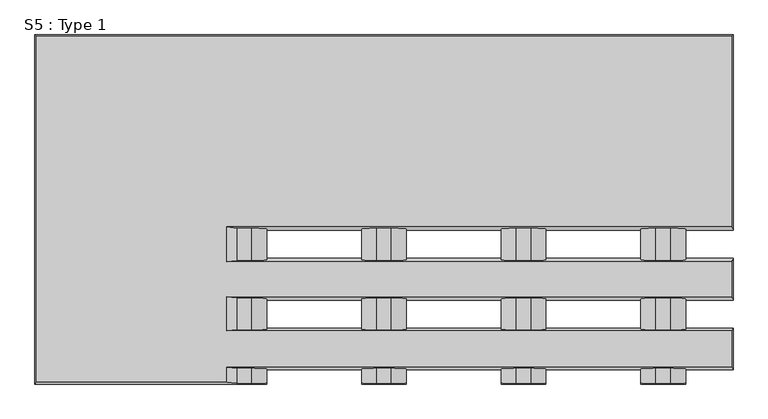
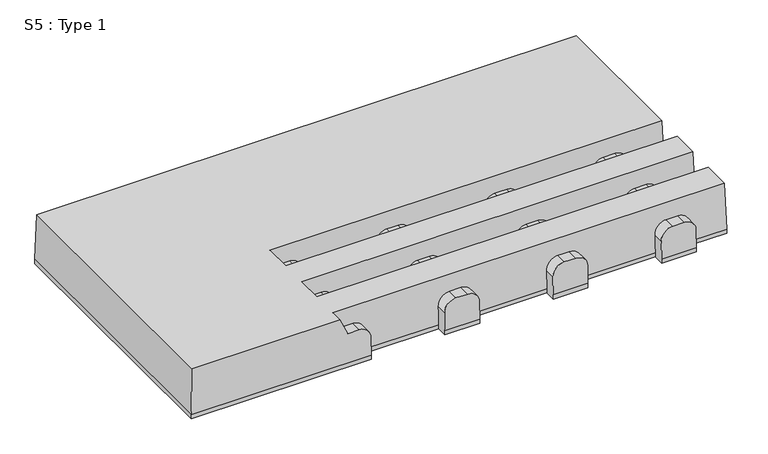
"""IFC4 building model written with IfcOpenShell, lengths in millimetres: proxy geometry, S5 : Type 1."""

from ifc_helpers import new_model, si_unit, frame, origin, place, context, project, spatial, ellipse_curve, source, transform, mapped, element, save
from ifc_brep_helpers import plane_surface, cylinder_surface, advanced_brep


def s5_type_1_397d8c60(model_context):
    return source(origin(), model_context, "Body", "AdvancedBrep", [
        advanced_brep(
        [(0.0, 0.0, 0.0), (415.0, 0.0, 0.0), (415.0, 0.0, 10.0), (0.0, 0.0, 10.0), (1250.0, 625.0, 0.0), (0.0, 625.0, 0.0), (0.0, 625.0, 10.0), (1250.0, 625.0, 10.0), (1250.0, 275.25, 0.0), (1165.0, 275.25, 0.0), (1165.0, 224.75, 0.0), (1250.0, 224.75, 0.0), (1250.0, 150.25, 0.0), (1165.0, 150.25, 0.0), (1165.0, 99.75, 0.0), (1250.0, 99.75, 0.0), (1250.0, 25.25, 0.0), (1165.0, 25.25, 0.0), (1165.0, 0.0, 0.0), (1085.0, 0.0, 0.0), (1085.0, 25.25, 0.0), (915.0, 25.25, 0.0), (915.0, 0.0, 0.0), (835.0, 0.0, 0.0), (835.0, 25.25, 0.0), (665.0, 25.25, 0.0), (665.0, 0.0, 0.0), (585.0, 0.0, 0.0), (585.0, 25.25, 0.0), (415.0, 25.25, 0.0), (665.0, 150.25, 0.0), (665.0, 99.75, 0.0), (835.0, 99.75, 0.0), (835.0, 150.25, 0.0), (665.0, 275.25, 0.0), (665.0, 224.75, 0.0), (835.0, 224.75, 0.0), (835.0, 275.25, 0.0), (915.0, 150.25, 0.0), (915.0, 99.75, 0.0), (1085.0, 99.75, 0.0), (1085.0, 150.25, 0.0), (915.0, 275.25, 0.0), (915.0, 224.75, 0.0), (1085.0, 224.75, 0.0), (1085.0, 275.25, 0.0), (415.0, 150.25, 0.0), (415.0, 99.75, 0.0), (585.0, 99.75, 0.0), (585.0, 150.25, 0.0), (415.0, 275.25, 0.0), (415.0, 224.75, 0.0), (585.0, 224.75, 0.0), (585.0, 275.25, 0.0), (1250.0, 99.75, 10.0), (1250.0, 25.25, 10.0), (1165.0, 99.75, 10.0), (665.0, 99.75, 10.0), (835.0, 99.75, 10.0), (915.0, 99.75, 10.0), (1085.0, 99.75, 10.0), (415.0, 99.75, 10.0), (585.0, 99.75, 10.0), (415.0, 97.8943952, 53.33), (388.33, 96.7522539, 80.0), (361.67, 96.7522539, 80.0), (343.8, 95.0392562, 120.0), (1247.25, 95.0392562, 120.0), (1165.0, 97.8943952, 53.33), (1138.33, 96.7522539, 80.0), (1111.67, 96.7522539, 80.0), (1085.0, 97.8943952, 53.33), (915.0, 97.8943952, 53.33), (888.33, 96.7522539, 80.0), (861.67, 96.7522539, 80.0), (835.0, 97.8943952, 53.33), (665.0, 97.8943952, 53.33), (638.33, 96.7522539, 80.0), (611.67, 96.7522539, 80.0), (585.0, 97.8943952, 53.33), (415.0, 27.1056048, 53.33), (415.0, 25.25, 10.0), (585.0, 25.25, 10.0), (585.0, 27.1056048, 53.33), (611.67, 28.2477461, 80.0), (638.33, 28.2477461, 80.0), (665.0, 27.1056048, 53.33), (665.0, 25.25, 10.0), (835.0, 25.25, 10.0), (835.0, 27.1056048, 53.33), (861.67, 28.2477461, 80.0), (888.33, 28.2477461, 80.0), (915.0, 27.1056048, 53.33), (915.0, 25.25, 10.0), (1085.0, 25.25, 10.0), (1085.0, 27.1056048, 53.33), (1111.67, 28.2477461, 80.0), (1138.33, 28.2477461, 80.0), (1165.0, 27.1056048, 53.33), (1165.0, 25.25, 10.0), (1247.25, 29.9607438, 120.0), (343.8, 29.9607438, 120.0), (361.67, 28.2477461, 80.0), (388.33, 28.2477461, 80.0), (1250.0, 224.75, 10.0), (1250.0, 150.25, 10.0), (1165.0, 224.75, 10.0), (665.0, 224.75, 10.0), (835.0, 224.75, 10.0), (915.0, 224.75, 10.0), (1085.0, 224.75, 10.0), (415.0, 224.75, 10.0), (585.0, 224.75, 10.0), (415.0, 222.3865455, 53.33), (388.33, 220.9318182, 80.0), (361.67, 220.9318182, 80.0), (343.8, 218.75, 120.0), (1247.25, 218.75, 120.0), (1165.0, 222.3865455, 53.33), (1138.33, 220.9318182, 80.0), (1111.67, 220.9318182, 80.0), (1085.0, 222.3865455, 53.33), (915.0, 222.3865455, 53.33), (888.33, 220.9318182, 80.0), (861.67, 220.9318182, 80.0), (835.0, 222.3865455, 53.33), (665.0, 222.3865455, 53.33), (638.33, 220.9318182, 80.0), (611.67, 220.9318182, 80.0), (585.0, 222.3865455, 53.33), (415.0, 152.6134545, 53.33), (415.0, 150.25, 10.0), (585.0, 150.25, 10.0), (585.0, 152.6134545, 53.33), (611.67, 154.0681818, 80.0), (638.33, 154.0681818, 80.0), (665.0, 152.6134545, 53.33), (665.0, 150.25, 10.0), (835.0, 150.25, 10.0), (835.0, 152.6134545, 53.33), (861.67, 154.0681818, 80.0), (888.33, 154.0681818, 80.0), (915.0, 152.6134545, 53.33), (915.0, 150.25, 10.0), (1085.0, 150.25, 10.0), (1085.0, 152.6134545, 53.33), (1111.67, 154.0681818, 80.0), (1138.33, 154.0681818, 80.0), (1165.0, 152.6134545, 53.33), (1165.0, 150.25, 10.0), (1247.25, 156.25, 120.0), (343.8, 156.25, 120.0), (361.67, 154.0681818, 80.0), (388.33, 154.0681818, 80.0), (1250.0, 275.25, 10.0), (415.0, 277.6134545, 53.33), (415.0, 275.25, 10.0), (585.0, 275.25, 10.0), (585.0, 277.6134545, 53.33), (611.67, 279.0681818, 80.0), (638.33, 279.0681818, 80.0), (665.0, 277.6134545, 53.33), (665.0, 275.25, 10.0), (835.0, 275.25, 10.0), (835.0, 277.6134545, 53.33), (861.67, 279.0681818, 80.0), (888.33, 279.0681818, 80.0), (915.0, 277.6134545, 53.33), (915.0, 275.25, 10.0), (1085.0, 275.25, 10.0), (1085.0, 277.6134545, 53.33), (1111.67, 279.0681818, 80.0), (1138.33, 279.0681818, 80.0), (1165.0, 277.6134545, 53.33), (1165.0, 275.25, 10.0), (1247.25, 281.25, 120.0), (343.8, 281.25, 120.0), (361.67, 279.0681818, 80.0), (388.33, 279.0681818, 80.0), (665.0, 0.0, 10.0), (585.0, 0.0, 10.0), (915.0, 0.0, 10.0), (835.0, 0.0, 10.0), (1165.0, 0.0, 10.0), (1085.0, 0.0, 10.0), (665.0, 1.08325, 53.33), (638.33, 1.75, 80.0), (611.67, 1.75, 80.0), (585.0, 1.08325, 53.33), (915.0, 1.08325, 53.33), (888.33, 1.75, 80.0), (861.67, 1.75, 80.0), (835.0, 1.08325, 53.33), (1165.0, 1.08325, 53.33), (1138.33, 1.75, 80.0), (1111.67, 1.75, 80.0), (1085.0, 1.08325, 53.33), (415.0, 1.08325, 53.33), (388.33, 1.75, 80.0), (361.67, 1.75, 80.0), (343.8, 2.75, 120.0), (1247.25, 622.25, 120.0), (2.75, 622.25, 120.0), (2.75, 2.75, 120.0)],
        [
            (0, 1),
            (1, 2),
            (2, 3),
            (3, 0),
            (4, 5),
            (5, 6),
            (6, 7),
            (7, 4),
            (5, 0),
            (3, 6),
            (4, 8),
            (8, 9),
            (9, 10),
            (10, 11),
            (11, 12),
            (12, 13),
            (13, 14),
            (14, 15),
            (15, 16),
            (16, 17),
            (17, 18),
            (18, 19),
            (19, 20),
            (20, 21),
            (21, 22),
            (22, 23),
            (23, 24),
            (24, 25),
            (25, 26),
            (26, 27),
            (27, 28),
            (28, 29),
            (29, 1),
            (30, 31),
            (31, 32),
            (32, 33),
            (33, 30),
            (34, 35),
            (35, 36),
            (36, 37),
            (37, 34),
            (38, 39),
            (39, 40),
            (40, 41),
            (41, 38),
            (42, 43),
            (43, 44),
            (44, 45),
            (45, 42),
            (46, 47),
            (47, 48),
            (48, 49),
            (49, 46),
            (50, 51),
            (51, 52),
            (52, 53),
            (53, 50),
            (15, 54),
            (54, 55),
            (55, 16),
            (14, 56),
            (56, 54),
            (31, 57),
            (57, 58),
            (58, 32),
            (39, 59),
            (59, 60),
            (60, 40),
            (47, 61),
            (61, 62),
            (62, 48),
            (61, 63),
            (63, 64, ellipse_curve(frame((388.33, 97.8943952, 53.33), z_axis=(0.0, -0.9990842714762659, -0.042785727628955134), x_axis=(0.0, -0.04278572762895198, 0.999084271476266)), 26.6944449, 26.67)),
            (64, 65),
            (65, 66),
            (66, 67),
            (67, 54),
            (56, 68),
            (68, 69, ellipse_curve(frame((1138.33, 97.8943952, 53.33), z_axis=(0.0, -0.9990842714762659, -0.042785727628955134), x_axis=(0.0, -0.04278572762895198, 0.999084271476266)), 26.6944449, 26.67)),
            (69, 70),
            (70, 71, ellipse_curve(frame((1111.67, 97.8943952, 53.33), z_axis=(0.0, -0.9990842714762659, -0.042785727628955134), x_axis=(0.0, -0.04278572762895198, 0.999084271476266)), 26.6944449, 26.67)),
            (71, 60),
            (59, 72),
            (72, 73, ellipse_curve(frame((888.33, 97.8943952, 53.33), z_axis=(0.0, -0.9990842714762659, -0.042785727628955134), x_axis=(0.0, -0.04278572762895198, 0.999084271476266)), 26.6944449, 26.67)),
            (73, 74),
            (74, 75, ellipse_curve(frame((861.67, 97.8943952, 53.33), z_axis=(0.0, -0.9990842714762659, -0.042785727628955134), x_axis=(0.0, -0.04278572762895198, 0.999084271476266)), 26.6944449, 26.67)),
            (75, 58),
            (57, 76),
            (76, 77, ellipse_curve(frame((638.33, 97.8943952, 53.33), z_axis=(0.0, -0.9990842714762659, -0.042785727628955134), x_axis=(0.0, -0.04278572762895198, 0.999084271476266)), 26.6944449, 26.67)),
            (77, 78),
            (78, 79, ellipse_curve(frame((611.67, 97.8943952, 53.33), z_axis=(0.0, -0.9990842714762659, -0.042785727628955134), x_axis=(0.0, -0.04278572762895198, 0.999084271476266)), 26.6944449, 26.67)),
            (79, 62),
            (80, 81),
            (81, 82),
            (82, 83),
            (83, 84, ellipse_curve(frame((611.67, 27.1056048, 53.33), z_axis=(0.0, 0.9990842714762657, -0.042785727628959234), x_axis=(0.0, -0.042785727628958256, -0.9990842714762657)), 26.6944449, 26.67)),
            (84, 85),
            (85, 86, ellipse_curve(frame((638.33, 27.1056048, 53.33), z_axis=(0.0, 0.9990842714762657, -0.042785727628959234), x_axis=(0.0, -0.042785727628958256, -0.9990842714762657)), 26.6944449, 26.67)),
            (86, 87),
            (87, 88),
            (88, 89),
            (89, 90, ellipse_curve(frame((861.67, 27.1056048, 53.33), z_axis=(0.0, 0.9990842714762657, -0.042785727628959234), x_axis=(0.0, -0.042785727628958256, -0.9990842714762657)), 26.6944449, 26.67)),
            (90, 91),
            (91, 92, ellipse_curve(frame((888.33, 27.1056048, 53.33), z_axis=(0.0, 0.9990842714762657, -0.042785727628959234), x_axis=(0.0, -0.042785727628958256, -0.9990842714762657)), 26.6944449, 26.67)),
            (92, 93),
            (93, 94),
            (94, 95),
            (95, 96, ellipse_curve(frame((1111.67, 27.1056048, 53.33), z_axis=(0.0, 0.9990842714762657, -0.042785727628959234), x_axis=(0.0, -0.042785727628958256, -0.9990842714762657)), 26.6944449, 26.67)),
            (96, 97),
            (97, 98, ellipse_curve(frame((1138.33, 27.1056048, 53.33), z_axis=(0.0, 0.9990842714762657, -0.042785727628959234), x_axis=(0.0, -0.042785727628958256, -0.9990842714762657)), 26.6944449, 26.67)),
            (98, 99),
            (99, 55),
            (55, 100),
            (100, 101),
            (101, 102),
            (102, 103),
            (103, 80, ellipse_curve(frame((388.33, 27.1056048, 53.33), z_axis=(0.0, 0.9990842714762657, -0.042785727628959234), x_axis=(0.0, -0.042785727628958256, -0.9990842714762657)), 26.6944449, 26.67)),
            (99, 17),
            (87, 25),
            (24, 88),
            (93, 21),
            (20, 94),
            (81, 29),
            (28, 82),
            (11, 104),
            (104, 105),
            (105, 12),
            (10, 106),
            (106, 104),
            (35, 107),
            (107, 108),
            (108, 36),
            (43, 109),
            (109, 110),
            (110, 44),
            (51, 111),
            (111, 112),
            (112, 52),
            (111, 113),
            (113, 114, ellipse_curve(frame((388.33, 222.3865455, 53.33), z_axis=(0.0, -0.9985157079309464, -0.05446449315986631), x_axis=(0.0, -0.05446449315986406, 0.9985157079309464)), 26.7096449, 26.67)),
            (114, 115),
            (115, 116),
            (116, 117),
            (117, 104),
            (106, 118),
            (118, 119, ellipse_curve(frame((1138.33, 222.3865455, 53.33), z_axis=(0.0, -0.9985157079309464, -0.05446449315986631), x_axis=(0.0, -0.05446449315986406, 0.9985157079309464)), 26.7096449, 26.67)),
            (119, 120),
            (120, 121, ellipse_curve(frame((1111.67, 222.3865455, 53.33), z_axis=(0.0, -0.9985157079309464, -0.05446449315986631), x_axis=(0.0, -0.05446449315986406, 0.9985157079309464)), 26.7096449, 26.67)),
            (121, 110),
            (109, 122),
            (122, 123, ellipse_curve(frame((888.33, 222.3865455, 53.33), z_axis=(0.0, -0.9985157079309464, -0.05446449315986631), x_axis=(0.0, -0.05446449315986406, 0.9985157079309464)), 26.7096449, 26.67)),
            (123, 124),
            (124, 125, ellipse_curve(frame((861.67, 222.3865455, 53.33), z_axis=(0.0, -0.9985157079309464, -0.05446449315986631), x_axis=(0.0, -0.05446449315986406, 0.9985157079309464)), 26.7096449, 26.67)),
            (125, 108),
            (107, 126),
            (126, 127, ellipse_curve(frame((638.33, 222.3865455, 53.33), z_axis=(0.0, -0.9985157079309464, -0.05446449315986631), x_axis=(0.0, -0.05446449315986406, 0.9985157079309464)), 26.7096449, 26.67)),
            (127, 128),
            (128, 129, ellipse_curve(frame((611.67, 222.3865455, 53.33), z_axis=(0.0, -0.9985157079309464, -0.05446449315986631), x_axis=(0.0, -0.05446449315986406, 0.9985157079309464)), 26.7096449, 26.67)),
            (129, 112),
            (130, 131),
            (131, 132),
            (132, 133),
            (133, 134, ellipse_curve(frame((611.67, 152.6134545, 53.33), z_axis=(0.0, 0.998515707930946, -0.05446449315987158), x_axis=(0.0, -0.05446449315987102, -0.9985157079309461)), 26.7096449, 26.67)),
            (134, 135),
            (135, 136, ellipse_curve(frame((638.33, 152.6134545, 53.33), z_axis=(0.0, 0.998515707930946, -0.05446449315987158), x_axis=(0.0, -0.05446449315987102, -0.9985157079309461)), 26.7096449, 26.67)),
            (136, 137),
            (137, 138),
            (138, 139),
            (139, 140, ellipse_curve(frame((861.67, 152.6134545, 53.33), z_axis=(0.0, 0.998515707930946, -0.05446449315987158), x_axis=(0.0, -0.05446449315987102, -0.9985157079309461)), 26.7096449, 26.67)),
            (140, 141),
            (141, 142, ellipse_curve(frame((888.33, 152.6134545, 53.33), z_axis=(0.0, 0.998515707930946, -0.05446449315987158), x_axis=(0.0, -0.05446449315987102, -0.9985157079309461)), 26.7096449, 26.67)),
            (142, 143),
            (143, 144),
            (144, 145),
            (145, 146, ellipse_curve(frame((1111.67, 152.6134545, 53.33), z_axis=(0.0, 0.998515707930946, -0.05446449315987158), x_axis=(0.0, -0.05446449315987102, -0.9985157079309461)), 26.7096449, 26.67)),
            (146, 147),
            (147, 148, ellipse_curve(frame((1138.33, 152.6134545, 53.33), z_axis=(0.0, 0.998515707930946, -0.05446449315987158), x_axis=(0.0, -0.05446449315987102, -0.9985157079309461)), 26.7096449, 26.67)),
            (148, 149),
            (149, 105),
            (105, 150),
            (150, 151),
            (151, 152),
            (152, 153),
            (153, 130, ellipse_curve(frame((388.33, 152.6134545, 53.33), z_axis=(0.0, 0.998515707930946, -0.05446449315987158), x_axis=(0.0, -0.05446449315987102, -0.9985157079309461)), 26.7096449, 26.67)),
            (149, 13),
            (137, 30),
            (33, 138),
            (143, 38),
            (41, 144),
            (131, 46),
            (49, 132),
            (154, 8),
            (7, 154),
            (155, 156),
            (156, 157),
            (157, 158),
            (158, 159, ellipse_curve(frame((611.67, 277.6134545, 53.33), z_axis=(0.0, 0.998515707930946, -0.05446449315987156), x_axis=(0.0, -0.054464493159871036, -0.998515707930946)), 26.7096449, 26.67)),
            (159, 160),
            (160, 161, ellipse_curve(frame((638.33, 277.6134545, 53.33), z_axis=(0.0, 0.998515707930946, -0.05446449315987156), x_axis=(0.0, -0.054464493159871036, -0.998515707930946)), 26.7096449, 26.67)),
            (161, 162),
            (162, 163),
            (163, 164),
            (164, 165, ellipse_curve(frame((861.67, 277.6134545, 53.33), z_axis=(0.0, 0.998515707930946, -0.05446449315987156), x_axis=(0.0, -0.054464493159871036, -0.998515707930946)), 26.7096449, 26.67)),
            (165, 166),
            (166, 167, ellipse_curve(frame((888.33, 277.6134545, 53.33), z_axis=(0.0, 0.998515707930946, -0.05446449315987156), x_axis=(0.0, -0.054464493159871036, -0.998515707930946)), 26.7096449, 26.67)),
            (167, 168),
            (168, 169),
            (169, 170),
            (170, 171, ellipse_curve(frame((1111.67, 277.6134545, 53.33), z_axis=(0.0, 0.998515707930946, -0.05446449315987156), x_axis=(0.0, -0.054464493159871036, -0.998515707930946)), 26.7096449, 26.67)),
            (171, 172),
            (172, 173, ellipse_curve(frame((1138.33, 277.6134545, 53.33), z_axis=(0.0, 0.998515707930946, -0.05446449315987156), x_axis=(0.0, -0.054464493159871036, -0.998515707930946)), 26.7096449, 26.67)),
            (173, 174),
            (174, 154),
            (154, 175),
            (175, 176),
            (176, 177),
            (177, 178),
            (178, 155, ellipse_curve(frame((388.33, 277.6134545, 53.33), z_axis=(0.0, 0.998515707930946, -0.05446449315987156), x_axis=(0.0, -0.054464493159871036, -0.998515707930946)), 26.7096449, 26.67)),
            (174, 9),
            (162, 34),
            (37, 163),
            (168, 42),
            (45, 169),
            (156, 50),
            (53, 157),
            (26, 179),
            (179, 180),
            (180, 27),
            (22, 181),
            (181, 182),
            (182, 23),
            (18, 183),
            (183, 184),
            (184, 19),
            (86, 185),
            (185, 179),
            (136, 76),
            (161, 126),
            (85, 186),
            (186, 185, ellipse_curve(frame((638.33, 1.08325, 53.33), z_axis=(0.0, 0.9996876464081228, -0.024992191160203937), x_axis=(0.0, -0.02499219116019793, -0.9996876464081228)), 26.6783331, 26.67)),
            (135, 77),
            (160, 127),
            (84, 187),
            (187, 186),
            (134, 78),
            (159, 128),
            (83, 188),
            (188, 187, ellipse_curve(frame((611.67, 1.08325, 53.33), z_axis=(0.0, 0.9996876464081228, -0.024992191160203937), x_axis=(0.0, -0.02499219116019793, -0.9996876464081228)), 26.6783331, 26.67)),
            (133, 79),
            (158, 129),
            (180, 188),
            (92, 189),
            (189, 181),
            (142, 72),
            (167, 122),
            (91, 190),
            (190, 189, ellipse_curve(frame((888.33, 1.08325, 53.33), z_axis=(0.0, 0.9996876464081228, -0.024992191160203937), x_axis=(0.0, -0.02499219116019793, -0.9996876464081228)), 26.6783331, 26.67)),
            (141, 73),
            (166, 123),
            (90, 191),
            (191, 190),
            (140, 74),
            (165, 124),
            (89, 192),
            (192, 191, ellipse_curve(frame((861.67, 1.08325, 53.33), z_axis=(0.0, 0.9996876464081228, -0.024992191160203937), x_axis=(0.0, -0.02499219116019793, -0.9996876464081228)), 26.6783331, 26.67)),
            (139, 75),
            (164, 125),
            (182, 192),
            (173, 118),
            (148, 68),
            (98, 193),
            (193, 183),
            (97, 194),
            (194, 193, ellipse_curve(frame((1138.33, 1.08325, 53.33), z_axis=(0.0, 0.9996876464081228, -0.024992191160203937), x_axis=(0.0, -0.02499219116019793, -0.9996876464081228)), 26.6783331, 26.67)),
            (147, 69),
            (172, 119),
            (96, 195),
            (195, 194),
            (146, 70),
            (171, 120),
            (95, 196),
            (196, 195, ellipse_curve(frame((1111.67, 1.08325, 53.33), z_axis=(0.0, 0.9996876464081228, -0.024992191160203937), x_axis=(0.0, -0.02499219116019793, -0.9996876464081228)), 26.6783331, 26.67)),
            (145, 71),
            (170, 121),
            (184, 196),
            (80, 197),
            (197, 2),
            (130, 63),
            (155, 113),
            (153, 64),
            (103, 198),
            (198, 197, ellipse_curve(frame((388.33, 1.08325, 53.33), z_axis=(0.0, 0.9996876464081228, -0.024992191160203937), x_axis=(0.0, -0.02499219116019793, -0.9996876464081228)), 26.6783331, 26.67)),
            (178, 114),
            (152, 65),
            (102, 199),
            (199, 198),
            (177, 115),
            (151, 66),
            (101, 200),
            (200, 199),
            (176, 116),
            (150, 117),
            (175, 201),
            (201, 202),
            (202, 203),
            (203, 200),
            (100, 67),
            (3, 203),
            (202, 6),
            (7, 201),
        ],
        [
            plane_surface(frame((415.0, 0.0, 0.0), z_axis=(0.0, -1.0, 0.0), x_axis=(0.0, 0.0, 1.0))),
            plane_surface(frame((415.0, 625.0, 0.0), z_axis=(0.0, 1.0, 0.0), x_axis=(0.0, 0.0, -1.0))),
            plane_surface(frame((0.0, 0.0, 120.0), z_axis=(-1.0, 0.0, 0.0), x_axis=(0.0, 1.0, 0.0))),
            plane_surface(frame((0.0, 0.0, 0.0), z_axis=(0.0, 0.0, -1.0), x_axis=(0.0, 1.0, 0.0))),
            plane_surface(frame((1250.0, 99.75, 0.0), z_axis=(1.0, 0.0, 0.0), x_axis=(0.0, 0.0, 1.0))),
            plane_surface(frame((1250.0, 99.75, 0.0), z_axis=(0.0, 1.0, 0.0), x_axis=(-1.0, 0.0, 0.0))),
            plane_surface(frame((1250.0, 99.75, 10.0), z_axis=(0.0, 0.9990842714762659, 0.042785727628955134), x_axis=(-1.0, 0.0, 0.0))),
            plane_surface(frame((1250.0, 29.9607438, 120.0), z_axis=(0.0, -0.9990842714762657, 0.042785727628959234), x_axis=(-1.0, 0.0, 0.0))),
            plane_surface(frame((1250.0, 25.25, 10.0), z_axis=(0.0, -1.0, 0.0), x_axis=(-1.0, 0.0, 0.0))),
            plane_surface(frame((1250.0, 224.75, 0.0), z_axis=(1.0, 0.0, 0.0), x_axis=(0.0, 0.0, 1.0))),
            plane_surface(frame((1250.0, 224.75, 0.0), z_axis=(0.0, 1.0, 0.0), x_axis=(-1.0, 0.0, 0.0))),
            plane_surface(frame((1250.0, 224.75, 10.0), z_axis=(0.0, 0.9985157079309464, 0.05446449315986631), x_axis=(-1.0, 0.0, 0.0))),
            plane_surface(frame((1250.0, 156.25, 120.0), z_axis=(0.0, -0.998515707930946, 0.05446449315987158), x_axis=(-1.0, 0.0, 0.0))),
            plane_surface(frame((1250.0, 150.25, 10.0), z_axis=(0.0, -1.0, 0.0), x_axis=(-1.0, 0.0, 0.0))),
            plane_surface(frame((1250.0, 625.0, 0.0), z_axis=(1.0, 0.0, 0.0), x_axis=(0.0, 0.0, 1.0))),
            plane_surface(frame((1250.0, 281.25, 120.0), z_axis=(0.0, -0.998515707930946, 0.05446449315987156), x_axis=(-1.0, 0.0, 0.0))),
            plane_surface(frame((1250.0, 275.25, 10.0), z_axis=(0.0, -1.0, 0.0), x_axis=(-1.0, 0.0, 0.0))),
            plane_surface(frame((665.0, 0.0, 0.0), z_axis=(0.0, -1.0, 0.0), x_axis=(0.0, 0.0, 1.0))),
            plane_surface(frame((915.0, 0.0, 0.0), z_axis=(0.0, -1.0, 0.0), x_axis=(0.0, 0.0, 1.0))),
            plane_surface(frame((1165.0, 0.0, 0.0), z_axis=(0.0, -1.0, 0.0), x_axis=(0.0, 0.0, 1.0))),
            plane_surface(frame((665.0, 0.0, 0.0), z_axis=(1.0, 0.0, 0.0), x_axis=(0.0, 1.0, 0.0))),
            cylinder_surface(frame((638.33, 625.0, 53.33), z_axis=(0.0, -1.0, 0.0), x_axis=(1.0, 0.0, 0.0)), 26.67),
            plane_surface(frame((638.33, 0.0, 80.0), z_axis=(0.0, 0.0, 1.0), x_axis=(0.0, 1.0, 0.0))),
            cylinder_surface(frame((611.67, 625.0, 53.33), z_axis=(0.0, -1.0, 0.0), x_axis=(1.0, 0.0, 0.0)), 26.67),
            plane_surface(frame((585.0, 0.0, 53.33), z_axis=(-1.0, 0.0, 0.0), x_axis=(0.0, 1.0, 0.0))),
            plane_surface(frame((915.0, 0.0, 0.0), z_axis=(1.0, 0.0, 0.0), x_axis=(0.0, 1.0, 0.0))),
            cylinder_surface(frame((888.33, 625.0, 53.33), z_axis=(0.0, -1.0, 0.0), x_axis=(1.0, 0.0, 0.0)), 26.67),
            plane_surface(frame((888.33, 0.0, 80.0), z_axis=(0.0, 0.0, 1.0), x_axis=(0.0, 1.0, 0.0))),
            cylinder_surface(frame((861.67, 625.0, 53.33), z_axis=(0.0, -1.0, 0.0), x_axis=(1.0, 0.0, 0.0)), 26.67),
            plane_surface(frame((835.0, 0.0, 53.33), z_axis=(-1.0, 0.0, 0.0), x_axis=(0.0, 1.0, 0.0))),
            plane_surface(frame((1165.0, 0.0, 0.0), z_axis=(1.0, 0.0, 0.0), x_axis=(0.0, 1.0, 0.0))),
            cylinder_surface(frame((1138.33, 625.0, 53.33), z_axis=(0.0, -1.0, 0.0), x_axis=(1.0, 0.0, 0.0)), 26.67),
            plane_surface(frame((1138.33, 0.0, 80.0), z_axis=(0.0, 0.0, 1.0), x_axis=(0.0, 1.0, 0.0))),
            cylinder_surface(frame((1111.67, 625.0, 53.33), z_axis=(0.0, -1.0, 0.0), x_axis=(1.0, 0.0, 0.0)), 26.67),
            plane_surface(frame((1085.0, 0.0, 53.33), z_axis=(-1.0, 0.0, 0.0), x_axis=(0.0, 1.0, 0.0))),
            plane_surface(frame((415.0, 0.0, 0.0), z_axis=(1.0, 0.0, 0.0), x_axis=(0.0, 1.0, 0.0))),
            cylinder_surface(frame((388.33, 625.0, 53.33), z_axis=(0.0, -1.0, 0.0), x_axis=(1.0, 0.0, 0.0)), 26.67),
            plane_surface(frame((388.33, 0.0, 80.0), z_axis=(0.0, 0.0, 1.0), x_axis=(0.0, 1.0, 0.0))),
            plane_surface(frame((361.67, 0.0, 80.0), z_axis=(0.9130286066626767, 0.0, 0.4078955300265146), x_axis=(0.0, 1.0, 0.0))),
            plane_surface(frame((343.8, 0.0, 120.0), z_axis=(0.0, 0.0, 1.0), x_axis=(0.0, 1.0, 0.0))),
            plane_surface(frame((0.0, 0.0, 10.0), z_axis=(-0.9996876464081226, 0.0, 0.024992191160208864), x_axis=(0.0, 1.0, 0.0))),
            plane_surface(frame((1247.25, 0.0, 120.0), z_axis=(0.9996876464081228, 0.0, 0.024992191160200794), x_axis=(0.0, 1.0, 0.0))),
            plane_surface(frame((1250.0, 622.25, 120.0), z_axis=(0.0, 0.9996876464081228, 0.02499219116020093), x_axis=(-1.0, 0.0, 0.0))),
            plane_surface(frame((1250.0, 0.0, 10.0), z_axis=(0.0, -0.9996876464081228, 0.024992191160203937), x_axis=(-1.0, 0.0, 0.0))),
        ],
        [
            (0, [[1, 2, 3, 4]]),
            (1, [[5, 6, 7, 8]]),
            (2, [[9, -4, 10, -6]]),
            (3, [[-1, -9, -5, 11, 12, 13, 14, 15, 16, 17, 18, 19, 20, 21, 22, 23, 24, 25, 26, 27, 28, 29, 30, 31, 32, 33], [34, 35, 36, 37], [38, 39, 40, 41], [42, 43, 44, 45], [46, 47, 48, 49], [50, 51, 52, 53], [54, 55, 56, 57]]),
            (4, [[58, 59, 60, -19]]),
            (5, [[-58, -18, 61, 62]]),
            (5, [[63, 64, 65, -35]]),
            (5, [[66, 67, 68, -43]]),
            (5, [[69, 70, 71, -51]]),
            (6, [[72, 73, 74, 75, 76, 77, -62, 78, 79, 80, 81, 82, -67, 83, 84, 85, 86, 87, -64, 88, 89, 90, 91, 92, -70]]),
            (7, [[93, 94, 95, 96, 97, 98, 99, 100, 101, 102, 103, 104, 105, 106, 107, 108, 109, 110, 111, 112, 113, 114, 115, 116, 117]]),
            (8, [[-60, -112, 118, -20]]),
            (8, [[119, -28, 120, -100]]),
            (8, [[121, -24, 122, -106]]),
            (8, [[123, -32, 124, -94]]),
            (9, [[125, 126, 127, -15]]),
            (10, [[-125, -14, 128, 129]]),
            (10, [[130, 131, 132, -39]]),
            (10, [[133, 134, 135, -47]]),
            (10, [[136, 137, 138, -55]]),
            (11, [[139, 140, 141, 142, 143, 144, -129, 145, 146, 147, 148, 149, -134, 150, 151, 152, 153, 154, -131, 155, 156, 157, 158, 159, -137]]),
            (12, [[160, 161, 162, 163, 164, 165, 166, 167, 168, 169, 170, 171, 172, 173, 174, 175, 176, 177, 178, 179, 180, 181, 182, 183, 184]]),
            (13, [[-127, -179, 185, -16]]),
            (13, [[186, -37, 187, -167]]),
            (13, [[188, -45, 189, -173]]),
            (13, [[190, -53, 191, -161]]),
            (14, [[192, -11, -8, 193]]),
            (15, [[194, 195, 196, 197, 198, 199, 200, 201, 202, 203, 204, 205, 206, 207, 208, 209, 210, 211, 212, 213, 214, 215, 216, 217, 218]]),
            (16, [[-192, -213, 219, -12]]),
            (16, [[220, -41, 221, -201]]),
            (16, [[222, -49, 223, -207]]),
            (16, [[224, -57, 225, -195]]),
            (17, [[-30, 226, 227, 228]]),
            (18, [[-26, 229, 230, 231]]),
            (19, [[-22, 232, 233, 234]]),
            (20, [[-29, -119, -99, 235, 236, -226]]),
            (20, [[-34, -186, -166, 237, -88, -63]]),
            (20, [[-38, -220, -200, 238, -155, -130]]),
            (21, [[-98, 239, 240, -235]]),
            (21, [[-237, -165, 241, -89]]),
            (21, [[-238, -199, 242, -156]]),
            (22, [[-97, 243, 244, -239]]),
            (22, [[-241, -164, 245, -90]]),
            (22, [[-242, -198, 246, -157]]),
            (23, [[-96, 247, 248, -243]]),
            (23, [[-245, -163, 249, -91]]),
            (23, [[-246, -197, 250, -158]]),
            (24, [[-31, -228, 251, -247, -95, -124]]),
            (24, [[-52, -71, -92, -249, -162, -191]]),
            (24, [[-56, -138, -159, -250, -196, -225]]),
            (25, [[-25, -121, -105, 252, 253, -229]]),
            (25, [[-42, -188, -172, 254, -83, -66]]),
            (25, [[-46, -222, -206, 255, -150, -133]]),
            (26, [[-104, 256, 257, -252]]),
            (26, [[-254, -171, 258, -84]]),
            (26, [[-255, -205, 259, -151]]),
            (27, [[-103, 260, 261, -256]]),
            (27, [[-258, -170, 262, -85]]),
            (27, [[-259, -204, 263, -152]]),
            (28, [[-102, 264, 265, -260]]),
            (28, [[-262, -169, 266, -86]]),
            (28, [[-263, -203, 267, -153]]),
            (29, [[-27, -231, 268, -264, -101, -120]]),
            (29, [[-36, -65, -87, -266, -168, -187]]),
            (29, [[-40, -132, -154, -267, -202, -221]]),
            (30, [[-13, -219, -212, 269, -145, -128]]),
            (30, [[-17, -185, -178, 270, -78, -61]]),
            (30, [[-21, -118, -111, 271, 272, -232]]),
            (31, [[-110, 273, 274, -271]]),
            (31, [[-270, -177, 275, -79]]),
            (31, [[-269, -211, 276, -146]]),
            (32, [[-109, 277, 278, -273]]),
            (32, [[-275, -176, 279, -80]]),
            (32, [[-276, -210, 280, -147]]),
            (33, [[-108, 281, 282, -277]]),
            (33, [[-279, -175, 283, -81]]),
            (33, [[-280, -209, 284, -148]]),
            (34, [[-23, -234, 285, -281, -107, -122]]),
            (34, [[-44, -68, -82, -283, -174, -189]]),
            (34, [[-48, -135, -149, -284, -208, -223]]),
            (35, [[-33, -123, -93, 286, 287, -2]]),
            (35, [[-69, -50, -190, -160, 288, -72]]),
            (35, [[-136, -54, -224, -194, 289, -139]]),
            (36, [[-73, -288, -184, 290]]),
            (36, [[-117, 291, 292, -286]]),
            (36, [[-140, -289, -218, 293]]),
            (37, [[-74, -290, -183, 294]]),
            (37, [[-116, 295, 296, -291]]),
            (37, [[-141, -293, -217, 297]]),
            (38, [[-75, -294, -182, 298]]),
            (38, [[-115, 299, 300, -295]]),
            (38, [[-142, -297, -216, 301]]),
            (39, [[-298, -181, 302, -143, -301, -215, 303, 304, 305, 306, -299, -114, 307, -76]]),
            (40, [[-10, 308, -305, 309]]),
            (41, [[-193, 310, -303, -214]]),
            (41, [[-302, -180, -126, -144]]),
            (41, [[-307, -113, -59, -77]]),
            (42, [[-7, -309, -304, -310]]),
            (43, [[-3, -287, -292, -296, -300, -306, -308]]),
            (43, [[-227, -236, -240, -244, -248, -251]]),
            (43, [[-230, -253, -257, -261, -265, -268]]),
            (43, [[-233, -272, -274, -278, -282, -285]]),
        ],
    ),
    ])


if __name__ == "__main__":
    model = new_model("IFC4")
    model_context = context("Model", 3, world=origin())
    ifc_project = project(units=[si_unit("LENGTHUNIT", "METRE", prefix="MILLI")], contexts=[model_context])
    site = spatial("IfcSite", under=ifc_project)
    building = spatial("IfcBuilding", under=site)
    placement = place(None, origin())
    s5_type_1_shape = s5_type_1_397d8c60(model_context)
    element("IfcBuildingElementProxy", 1, Name="S5 : Type 1", ObjectType="S5 : Type 1", at=placement, inside=building, context=model_context, shape_type="MappedRepresentation", body=[
        mapped(s5_type_1_shape, transform((0.0, 0.0, 0.0), x_axis=(1.0, 0.0, 0.0), y_axis=(0.0, 1.0, 0.0), z_axis=(0.0, 0.0, 1.0))),
    ])
    save(model, "model.ifc")
